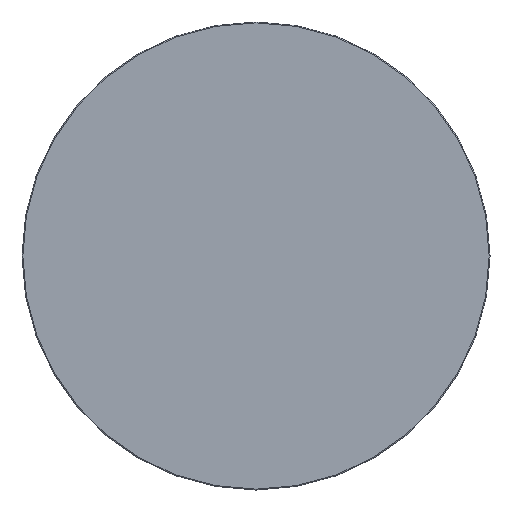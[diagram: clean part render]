
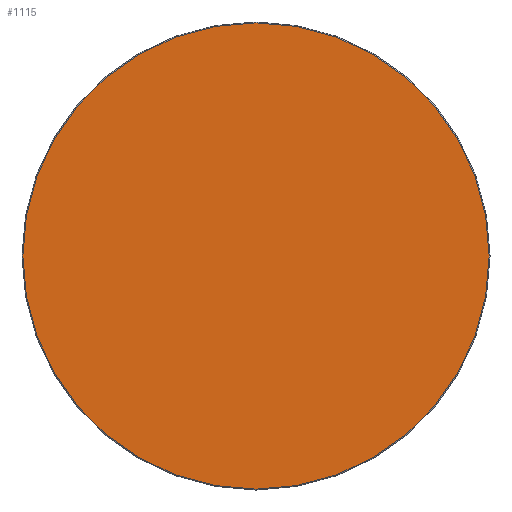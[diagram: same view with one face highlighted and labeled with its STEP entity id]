
A CAD part, left-side view. The second image highlights one B-rep face of the part: STEP entity #1115.
In plain terms, the highlighted planar face has unit normal (-1, 0, 0).
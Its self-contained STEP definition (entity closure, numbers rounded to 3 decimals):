
#1092=CARTESIAN_POINT('',(0.0,274.0,0.0));
#1093=VERTEX_POINT('',#1092);
#1094=CARTESIAN_POINT('',(0.0,0.0,0.0));
#1095=DIRECTION('',(1.0,0.0,0.0));
#1096=DIRECTION('',(0.0,-1.0,0.0));
#1097=AXIS2_PLACEMENT_3D('',#1094,#1095,#1096);
#1098=CIRCLE('',#1097,274.0);
#1099=EDGE_CURVE('',#1093,#1093,#1098,.T.);
#1107=CARTESIAN_POINT('',(0.0,195.319,0.));
#1108=DIRECTION('',(-1.0,0.0,0.0));
#1109=DIRECTION('',(0.0,0.0,1.0));
#1110=AXIS2_PLACEMENT_3D('',#1107,#1108,#1109);
#1111=PLANE('',#1110);
#1112=ORIENTED_EDGE('',*,*,#1099,.F.);
#1113=EDGE_LOOP('',(#1112));
#1114=FACE_OUTER_BOUND('',#1113,.T.);
#1115=ADVANCED_FACE('',(#1114),#1111,.T.);
